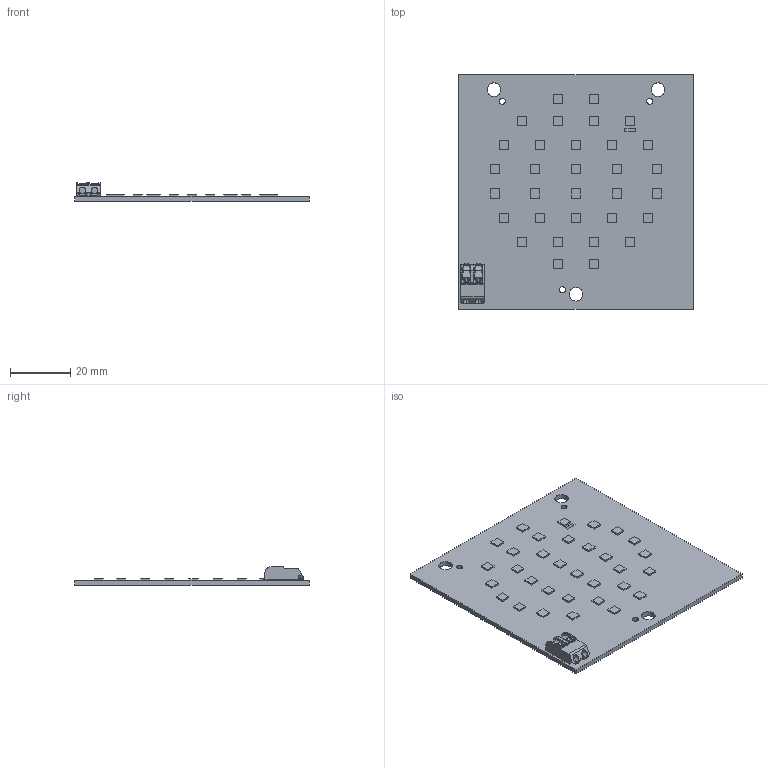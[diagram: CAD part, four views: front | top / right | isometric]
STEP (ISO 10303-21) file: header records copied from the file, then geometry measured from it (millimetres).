
FILE_DESCRIPTION((''),'2;1');
FILE_NAME('16207803_DLE-G4-2000LM','2017-02-02T',('bernhard.fink'),(''),'PRO/ENGINEER BY PARAMETRIC TECHNOLOGY CORPORATION, 2015200','PRO/ENGINEER BY PARAMETRIC TECHNOLOGY CORPORATION, 2015200','');
FILE_SCHEMA(('AUTOMOTIVE_DESIGN { 1 0 10303 214 1 1 1 1 }'));
Length unit declared in the file: millimetre
Products named in the file (1): 16207803_DLE-G4-2000LM
Bounding box: 78 x 78 x 6.15 mm (x, y, z)
Volume: 10388.9 mm3; surface area: 13417.2 mm2
Topology: 1 solids, 1 shells, 367 faces, 988 edges, 660 vertices
Faces by surface type: plane 296, cylinder 69, sphere 2
Entity records: 17491 total; most frequent: CARTESIAN_POINT 2123, ORIENTED_EDGE 1976, DIRECTION 1856, PRESENTATION_STYLE_ASSIGNMENT 1356, STYLED_ITEM 989, CURVE_STYLE 988, EDGE_CURVE 988, VECTOR 814
